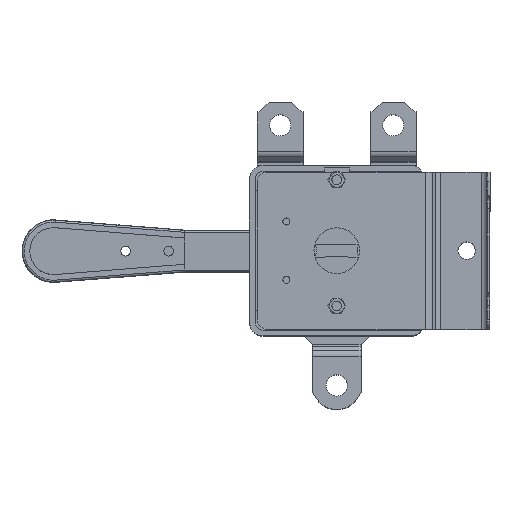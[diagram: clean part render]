
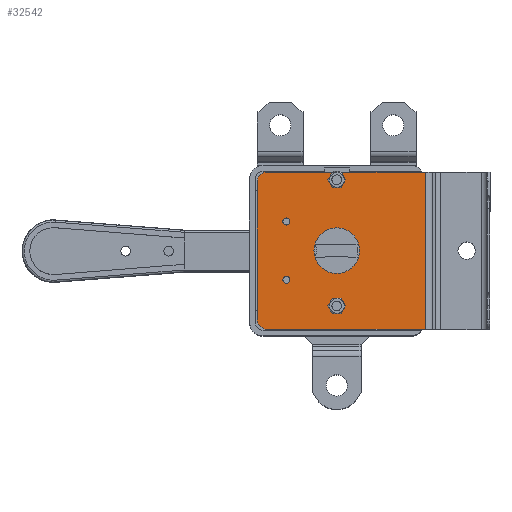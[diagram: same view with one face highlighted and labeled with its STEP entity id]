
A CAD part, top view. The second image highlights one B-rep face of the part: STEP entity #32542.
In plain terms, the highlighted planar face has unit normal (0, 0, 1) as drawn and (1, 0, 0) by its records, which use the part's own axes.
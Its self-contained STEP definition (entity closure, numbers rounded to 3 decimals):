
#54 = DIRECTION ( 'NONE',  ( 0., 1., 0. ) ) ;
#701 = DIRECTION ( 'NONE',  ( 1., 0., 0. ) ) ;
#2176 = DIRECTION ( 'NONE',  ( 1., 0., 0. ) ) ;
#2764 = ORIENTED_EDGE ( 'NONE', *, *, #9563, .F. ) ;
#2773 = CIRCLE ( 'NONE', #42003, 11.75 ) ;
#3046 = DIRECTION ( 'NONE',  ( 0., 0., 1. ) ) ;
#3459 = VECTOR ( 'NONE', #54, 1000. ) ;
#3741 = CARTESIAN_POINT ( 'NONE',  ( 3., 74.5, -36.5 ) ) ;
#4501 = DIRECTION ( 'NONE',  ( 0., 0., 1. ) ) ;
#4581 = LINE ( 'NONE', #52663, #49897 ) ;
#4709 = FACE_OUTER_BOUND ( 'NONE', #30218, .T. ) ;
#4873 = LINE ( 'NONE', #20461, #46738 ) ;
#4922 = DIRECTION ( 'NONE',  ( 1., 0., 0. ) ) ;
#5409 = DIRECTION ( 'NONE',  ( 1., 0., 0. ) ) ;
#5572 = CARTESIAN_POINT ( 'NONE',  ( 3., 74.5, 28.5 ) ) ;
#5946 = EDGE_CURVE ( 'NONE', #14001, #37132, #29243, .T. ) ;
#6080 = FACE_BOUND ( 'NONE', #22692, .T. ) ;
#6261 = VERTEX_POINT ( 'NONE', #35290 ) ;
#6468 = ORIENTED_EDGE ( 'NONE', *, *, #29419, .F. ) ;
#6650 = AXIS2_PLACEMENT_3D ( 'NONE', #25364, #29974, #7824 ) ;
#6932 = DIRECTION ( 'NONE',  ( 0., 1., 0. ) ) ;
#7079 = CARTESIAN_POINT ( 'NONE',  ( 3., 110.5, -40.5 ) ) ;
#7349 = ORIENTED_EDGE ( 'NONE', *, *, #38317, .F. ) ;
#7678 = ORIENTED_EDGE ( 'NONE', *, *, #38090, .T. ) ;
#7684 = DIRECTION ( 'NONE',  ( 0., 0., 1. ) ) ;
#7824 = DIRECTION ( 'NONE',  ( 0., 0., 1. ) ) ;
#8154 = CARTESIAN_POINT ( 'NONE',  ( 3., 74.5, -33.75 ) ) ;
#8378 = CARTESIAN_POINT ( 'NONE',  ( 3., 100.5, -13.185 ) ) ;
#8926 = LINE ( 'NONE', #33300, #48739 ) ;
#9563 = EDGE_CURVE ( 'NONE', #16828, #51120, #52358, .T. ) ;
#9594 = CARTESIAN_POINT ( 'NONE',  ( 3., 74.5, 0. ) ) ;
#9950 = DIRECTION ( 'NONE',  ( 0., 0., 1. ) ) ;
#10574 = EDGE_CURVE ( 'NONE', #37132, #14001, #2773, .T. ) ;
#10612 = EDGE_LOOP ( 'NONE', ( #33999, #55110 ) ) ;
#11096 = ORIENTED_EDGE ( 'NONE', *, *, #30292, .F. ) ;
#11118 = ORIENTED_EDGE ( 'NONE', *, *, #16158, .F. ) ;
#11713 = CARTESIAN_POINT ( 'NONE',  ( 3., 100.5, 15. ) ) ;
#11920 = DIRECTION ( 'NONE',  ( 1., 0., 0. ) ) ;
#12165 = CARTESIAN_POINT ( 'NONE',  ( 3., 100.5, -15. ) ) ;
#12488 = VERTEX_POINT ( 'NONE', #19415 ) ;
#12918 = DIRECTION ( 'NONE',  ( 0., 0., 1. ) ) ;
#13029 = DIRECTION ( 'NONE',  ( 1., 0., 0. ) ) ;
#13560 = VERTEX_POINT ( 'NONE', #39670 ) ;
#14001 = VERTEX_POINT ( 'NONE', #38484 ) ;
#14524 = ORIENTED_EDGE ( 'NONE', *, *, #10574, .F. ) ;
#15101 = AXIS2_PLACEMENT_3D ( 'NONE', #12165, #29535, #16984 ) ;
#15136 = LINE ( 'NONE', #38836, #3459 ) ;
#15387 = CIRCLE ( 'NONE', #15101, 1.815 ) ;
#15706 = CARTESIAN_POINT ( 'NONE',  ( 3., 74.5, 0. ) ) ;
#15813 = CARTESIAN_POINT ( 'NONE',  ( 3., 110.5, -35.5 ) ) ;
#16104 = AXIS2_PLACEMENT_3D ( 'NONE', #17408, #4922, #18177 ) ;
#16158 = EDGE_CURVE ( 'NONE', #51120, #16828, #39112, .T. ) ;
#16614 = ORIENTED_EDGE ( 'NONE', *, *, #48257, .F. ) ;
#16828 = VERTEX_POINT ( 'NONE', #38543 ) ;
#16984 = DIRECTION ( 'NONE',  ( 0., 0., 1. ) ) ;
#17323 = CIRCLE ( 'NONE', #50907, 2.75 ) ;
#17408 = CARTESIAN_POINT ( 'NONE',  ( 3., 100.5, 15. ) ) ;
#17544 = ORIENTED_EDGE ( 'NONE', *, *, #22939, .T. ) ;
#18177 = DIRECTION ( 'NONE',  ( 0., 0., 1. ) ) ;
#18473 = ORIENTED_EDGE ( 'NONE', *, *, #49923, .F. ) ;
#19219 = EDGE_LOOP ( 'NONE', ( #18473, #6468 ) ) ;
#19415 = CARTESIAN_POINT ( 'NONE',  ( 3., 74.5, 25.75 ) ) ;
#20461 = CARTESIAN_POINT ( 'NONE',  ( 3., 115.5, 40.5 ) ) ;
#21416 = CARTESIAN_POINT ( 'NONE',  ( 3., 110.5, 40.5 ) ) ;
#22115 = CIRCLE ( 'NONE', #16104, 1.815 ) ;
#22692 = EDGE_LOOP ( 'NONE', ( #27550, #14524 ) ) ;
#22939 = EDGE_CURVE ( 'NONE', #39745, #55976, #15136, .T. ) ;
#24075 = CARTESIAN_POINT ( 'NONE',  ( 3., 74.5, -11.75 ) ) ;
#24534 = AXIS2_PLACEMENT_3D ( 'NONE', #27042, #701, #32200 ) ;
#25188 = CARTESIAN_POINT ( 'NONE',  ( 3., 29., 40.5 ) ) ;
#25364 = CARTESIAN_POINT ( 'NONE',  ( 3., 100.5, -15. ) ) ;
#26730 = EDGE_CURVE ( 'NONE', #55976, #33900, #50963, .T. ) ;
#26746 = EDGE_LOOP ( 'NONE', ( #11118, #2764 ) ) ;
#27042 = CARTESIAN_POINT ( 'NONE',  ( 3., 110.5, 35.5 ) ) ;
#27550 = ORIENTED_EDGE ( 'NONE', *, *, #5946, .F. ) ;
#27808 = AXIS2_PLACEMENT_3D ( 'NONE', #25188, #30169, #34575 ) ;
#28416 = CARTESIAN_POINT ( 'NONE',  ( 3., 100.5, -16.815 ) ) ;
#28615 = EDGE_CURVE ( 'NONE', #52461, #39745, #4581, .T. ) ;
#28842 = FACE_BOUND ( 'NONE', #26746, .T. ) ;
#29037 = CIRCLE ( 'NONE', #6650, 1.815 ) ;
#29243 = CIRCLE ( 'NONE', #34843, 11.75 ) ;
#29419 = EDGE_CURVE ( 'NONE', #12488, #6261, #54573, .T. ) ;
#29535 = DIRECTION ( 'NONE',  ( 1., 0., 0. ) ) ;
#29974 = DIRECTION ( 'NONE',  ( 1., 0., 0. ) ) ;
#30030 = VERTEX_POINT ( 'NONE', #45768 ) ;
#30169 = DIRECTION ( 'NONE',  ( -1., 0., 0. ) ) ;
#30218 = EDGE_LOOP ( 'NONE', ( #17544, #53149, #7349, #7678, #48475, #39731 ) ) ;
#30292 = EDGE_CURVE ( 'NONE', #56129, #45212, #15387, .T. ) ;
#31691 = AXIS2_PLACEMENT_3D ( 'NONE', #3741, #34492, #4501 ) ;
#32200 = DIRECTION ( 'NONE',  ( 0., 0., 1. ) ) ;
#32542 = ADVANCED_FACE ( 'NONE', ( #50750, #48626, #4709, #6080, #28842, #51420 ), #42567, .F. ) ;
#33300 = CARTESIAN_POINT ( 'NONE',  ( 3., 29., 40.5 ) ) ;
#33753 = DIRECTION ( 'NONE',  ( 0., 0., -1. ) ) ;
#33900 = VERTEX_POINT ( 'NONE', #52984 ) ;
#33999 = ORIENTED_EDGE ( 'NONE', *, *, #38026, .F. ) ;
#34197 = DIRECTION ( 'NONE',  ( 0., 0., 1. ) ) ;
#34492 = DIRECTION ( 'NONE',  ( 1., 0., 0. ) ) ;
#34575 = DIRECTION ( 'NONE',  ( 0., 0., 1. ) ) ;
#34801 = VERTEX_POINT ( 'NONE', #21416 ) ;
#34843 = AXIS2_PLACEMENT_3D ( 'NONE', #15706, #55029, #3046 ) ;
#35290 = CARTESIAN_POINT ( 'NONE',  ( 3., 74.5, 31.25 ) ) ;
#35833 = DIRECTION ( 'NONE',  ( 0., 0., -1. ) ) ;
#36323 = DIRECTION ( 'NONE',  ( 1., 0., 0. ) ) ;
#37120 = AXIS2_PLACEMENT_3D ( 'NONE', #11713, #11920, #7684 ) ;
#37132 = VERTEX_POINT ( 'NONE', #24075 ) ;
#38026 = EDGE_CURVE ( 'NONE', #50922, #13560, #22115, .T. ) ;
#38090 = EDGE_CURVE ( 'NONE', #30030, #34801, #46087, .T. ) ;
#38317 = EDGE_CURVE ( 'NONE', #30030, #33900, #4873, .T. ) ;
#38484 = CARTESIAN_POINT ( 'NONE',  ( 3., 74.5, 11.75 ) ) ;
#38543 = CARTESIAN_POINT ( 'NONE',  ( 3., 74.5, -39.25 ) ) ;
#38777 = EDGE_CURVE ( 'NONE', #52461, #34801, #8926, .T. ) ;
#38836 = CARTESIAN_POINT ( 'NONE',  ( 3., 29., -40.5 ) ) ;
#39112 = CIRCLE ( 'NONE', #31691, 2.75 ) ;
#39135 = CARTESIAN_POINT ( 'NONE',  ( 3., 74.5, -36.5 ) ) ;
#39204 = CARTESIAN_POINT ( 'NONE',  ( 3., 74.5, 28.5 ) ) ;
#39437 = EDGE_CURVE ( 'NONE', #13560, #50922, #41705, .T. ) ;
#39589 = DIRECTION ( 'NONE',  ( 1., 0., 0. ) ) ;
#39670 = CARTESIAN_POINT ( 'NONE',  ( 3., 100.5, 13.185 ) ) ;
#39731 = ORIENTED_EDGE ( 'NONE', *, *, #28615, .T. ) ;
#39745 = VERTEX_POINT ( 'NONE', #53145 ) ;
#41699 = DIRECTION ( 'NONE',  ( 0., 0., 1. ) ) ;
#41705 = CIRCLE ( 'NONE', #37120, 1.815 ) ;
#42003 = AXIS2_PLACEMENT_3D ( 'NONE', #9594, #5409, #44722 ) ;
#42567 = PLANE ( 'NONE',  #27808 ) ;
#44722 = DIRECTION ( 'NONE',  ( 0., 0., 1. ) ) ;
#45212 = VERTEX_POINT ( 'NONE', #28416 ) ;
#45768 = CARTESIAN_POINT ( 'NONE',  ( 3., 115.5, 35.5 ) ) ;
#46087 = CIRCLE ( 'NONE', #24534, 5. ) ;
#46738 = VECTOR ( 'NONE', #33753, 1000. ) ;
#46849 = AXIS2_PLACEMENT_3D ( 'NONE', #15813, #2176, #41699 ) ;
#48257 = EDGE_CURVE ( 'NONE', #45212, #56129, #29037, .T. ) ;
#48475 = ORIENTED_EDGE ( 'NONE', *, *, #38777, .F. ) ;
#48626 = FACE_BOUND ( 'NONE', #19219, .T. ) ;
#48739 = VECTOR ( 'NONE', #6932, 1000. ) ;
#49897 = VECTOR ( 'NONE', #35833, 1000. ) ;
#49923 = EDGE_CURVE ( 'NONE', #6261, #12488, #17323, .T. ) ;
#50750 = FACE_BOUND ( 'NONE', #10612, .T. ) ;
#50907 = AXIS2_PLACEMENT_3D ( 'NONE', #39204, #39589, #12918 ) ;
#50922 = VERTEX_POINT ( 'NONE', #54269 ) ;
#50963 = CIRCLE ( 'NONE', #46849, 5. ) ;
#51120 = VERTEX_POINT ( 'NONE', #8154 ) ;
#51420 = FACE_BOUND ( 'NONE', #52494, .T. ) ;
#52358 = CIRCLE ( 'NONE', #54136, 2.75 ) ;
#52461 = VERTEX_POINT ( 'NONE', #54142 ) ;
#52494 = EDGE_LOOP ( 'NONE', ( #11096, #16614 ) ) ;
#52663 = CARTESIAN_POINT ( 'NONE',  ( 3., 29., 40.5 ) ) ;
#52984 = CARTESIAN_POINT ( 'NONE',  ( 3., 115.5, -35.5 ) ) ;
#53145 = CARTESIAN_POINT ( 'NONE',  ( 3., 29., -40.5 ) ) ;
#53149 = ORIENTED_EDGE ( 'NONE', *, *, #26730, .T. ) ;
#54136 = AXIS2_PLACEMENT_3D ( 'NONE', #39135, #13029, #34197 ) ;
#54142 = CARTESIAN_POINT ( 'NONE',  ( 3., 29., 40.5 ) ) ;
#54269 = CARTESIAN_POINT ( 'NONE',  ( 3., 100.5, 16.815 ) ) ;
#54573 = CIRCLE ( 'NONE', #54779, 2.75 ) ;
#54779 = AXIS2_PLACEMENT_3D ( 'NONE', #5572, #36323, #9950 ) ;
#55029 = DIRECTION ( 'NONE',  ( 1., 0., 0. ) ) ;
#55110 = ORIENTED_EDGE ( 'NONE', *, *, #39437, .F. ) ;
#55976 = VERTEX_POINT ( 'NONE', #7079 ) ;
#56129 = VERTEX_POINT ( 'NONE', #8378 ) ;
